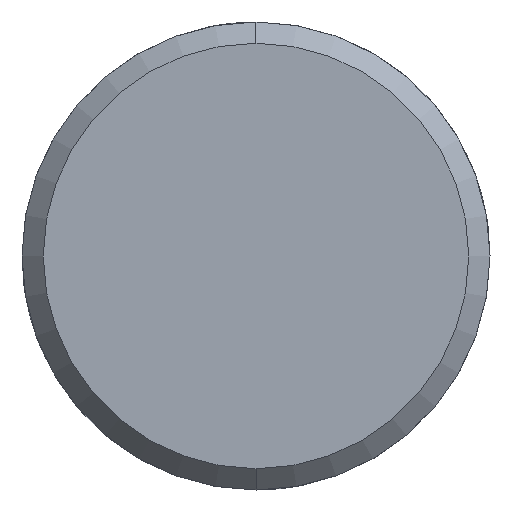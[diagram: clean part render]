
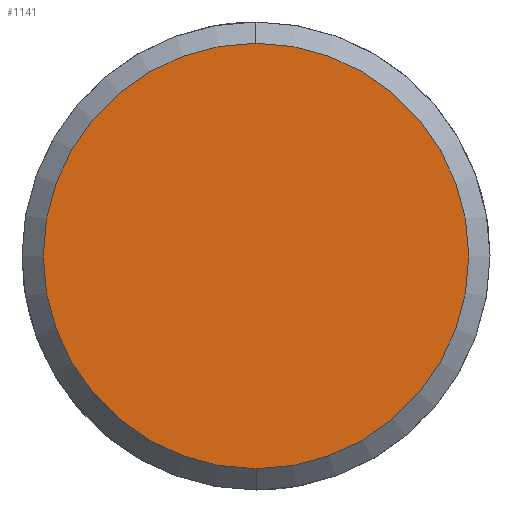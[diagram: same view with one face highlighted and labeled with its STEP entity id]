
A CAD part, left-side view. The second image highlights one B-rep face of the part: STEP entity #1141.
In plain terms, the highlighted planar face has unit normal (-1, 0, 0).
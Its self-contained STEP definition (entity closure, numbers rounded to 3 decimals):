
#1073=CARTESIAN_POINT('Vertex',(-5.,0.,-10.)) ;
#1076=CARTESIAN_POINT('Axis2P3D Location',(-5.,0.,0.)) ;
#1080=CARTESIAN_POINT('Vertex',(-5.,10.,0.)) ;
#1083=CARTESIAN_POINT('Axis2P3D Location',(-5.,0.,0.)) ;
#1087=CARTESIAN_POINT('Vertex',(-5.,0.,10.)) ;
#1109=CARTESIAN_POINT('Axis2P3D Location',(-5.,0.,0.)) ;
#1113=CARTESIAN_POINT('Vertex',(-5.,-10.,0.)) ;
#1116=CARTESIAN_POINT('Axis2P3D Location',(-5.,0.,0.)) ;
#1130=CARTESIAN_POINT('Axis2P3D Location',(-5.,0.,0.)) ;
#1077=DIRECTION('Axis2P3D Direction',(1.,0.,-0.)) ;
#1084=DIRECTION('Axis2P3D Direction',(1.,0.,-0.)) ;
#1110=DIRECTION('Axis2P3D Direction',(1.,0.,-0.)) ;
#1117=DIRECTION('Axis2P3D Direction',(1.,0.,-0.)) ;
#1131=DIRECTION('Axis2P3D Direction',(1.,0.,-0.)) ;
#1132=DIRECTION('Axis2P3D XDirection',(-0.,0.,-1.)) ;
#1078=AXIS2_PLACEMENT_3D('Circle Axis2P3D',#1076,#1077,$) ;
#1085=AXIS2_PLACEMENT_3D('Circle Axis2P3D',#1083,#1084,$) ;
#1111=AXIS2_PLACEMENT_3D('Circle Axis2P3D',#1109,#1110,$) ;
#1118=AXIS2_PLACEMENT_3D('Circle Axis2P3D',#1116,#1117,$) ;
#1133=AXIS2_PLACEMENT_3D('Plane Axis2P3D',#1130,#1131,#1132) ;
#1136=ORIENTED_EDGE('',*,*,#1082,.F.) ;
#1137=ORIENTED_EDGE('',*,*,#1120,.F.) ;
#1138=ORIENTED_EDGE('',*,*,#1115,.F.) ;
#1139=ORIENTED_EDGE('',*,*,#1089,.F.) ;
#1141=ADVANCED_FACE('351-12X46X120',(#1140),#1134,.F.) ;
#1079=CIRCLE('generated circle',#1078,10.) ;
#1086=CIRCLE('generated circle',#1085,10.) ;
#1112=CIRCLE('generated circle',#1111,10.) ;
#1119=CIRCLE('generated circle',#1118,10.) ;
#1082=EDGE_CURVE('',#1074,#1081,#1079,.T.) ;
#1089=EDGE_CURVE('',#1081,#1088,#1086,.T.) ;
#1115=EDGE_CURVE('',#1088,#1114,#1112,.T.) ;
#1120=EDGE_CURVE('',#1114,#1074,#1119,.T.) ;
#1135=EDGE_LOOP('',(#1136,#1137,#1138,#1139)) ;
#1140=FACE_OUTER_BOUND('',#1135,.T.) ;
#1134=PLANE('Plane',#1133) ;
#1074=VERTEX_POINT('',#1073) ;
#1081=VERTEX_POINT('',#1080) ;
#1088=VERTEX_POINT('',#1087) ;
#1114=VERTEX_POINT('',#1113) ;
